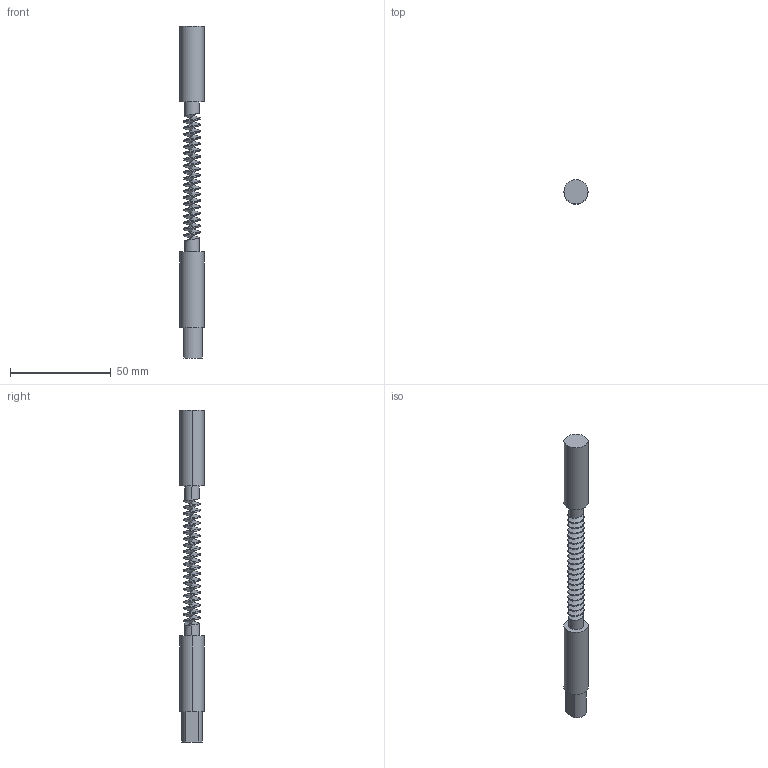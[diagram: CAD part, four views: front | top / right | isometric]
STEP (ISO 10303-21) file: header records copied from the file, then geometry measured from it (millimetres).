
FILE_DESCRIPTION (( 'STEP AP203' ), '1' );
FILE_NAME ('Vis san fin m=2 - 1 filet(s).STEP', '2025-09-18T12:10:28', ( '' ), ( '' ), 'SwSTEP 2.0', 'SolidWorks 2019', '' );
FILE_SCHEMA (( 'CONFIG_CONTROL_DESIGN' ));
Length unit declared in the file: millimetre
Products named in the file (1): Vis san fin m=2 - 1 filet(s)
Bounding box: 12 x 12 x 165 mm (x, y, z)
Volume: 11380.8 mm3; surface area: 6492.7 mm2
Topology: 1 solids, 1 shells, 65 faces, 178 edges, 118 vertices
Faces by surface type: cylinder 49, plane 10, bspline 6
Entity records: 8691 total; most frequent: CARTESIAN_POINT 7154, ORIENTED_EDGE 356, DIRECTION 220, EDGE_CURVE 178, VERTEX_POINT 118, B_SPLINE_CURVE_WITH_KNOTS 98, AXIS2_PLACEMENT_3D 80, EDGE_LOOP 68
